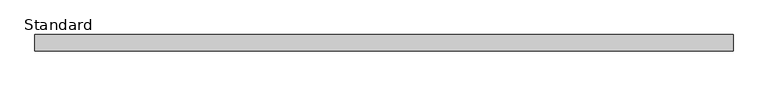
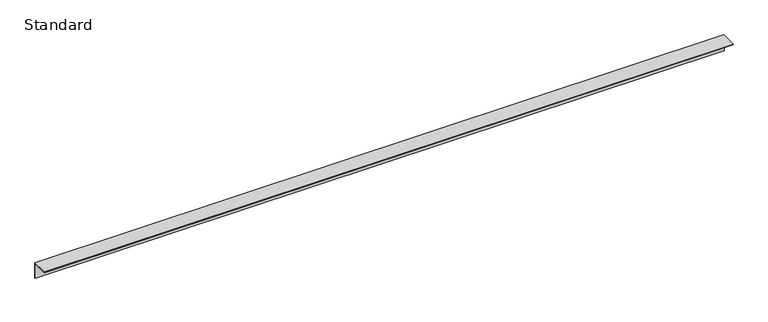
"""IFC4 building model written with IfcOpenShell, lengths in millimetres: furniture geometry, X_Vanity-Angle-Duracube-Bench Support : Standard."""

from ifc_helpers import new_model, si_unit, frame, origin, place, context, project, spatial, polyline, outline, extrude, source, transform, mapped, element, save


def standard_6c27929b(model_context):
    return source(origin(), model_context, "Body", "SweptSolid", [
        extrude(outline(polyline([(0.0, 0.0), (-2.0, 0.0), (-2.0, 38.0), (-40.0, 38.0), (-40.0, 40.0), (0.0, 40.0), (0.0, 0.0)])), frame((-808.7996736, 0.0, 0.0), z_axis=(1.0, 0.0, 0.0), x_axis=(0.0, 1.0, 0.0)), (0.0, 0.0, 1.0), 1707.0),
    ])


if __name__ == "__main__":
    model = new_model("IFC4")
    model_context = context("Model", 3, world=origin())
    ifc_project = project(units=[si_unit("LENGTHUNIT", "METRE", prefix="MILLI")], contexts=[model_context])
    site = spatial("IfcSite", under=ifc_project)
    building = spatial("IfcBuilding", under=site)
    placement = place(None, origin())
    standard_shape = standard_6c27929b(model_context)
    element("IfcFurniture", 1, ObjectType="X_Vanity-Angle-Duracube-Bench Support : Standard", at=placement, inside=building, context=model_context, shape_type="MappedRepresentation", body=[
        mapped(standard_shape, transform((0.0, 0.0, 0.0), x_axis=(1.0, 0.0, 0.0), y_axis=(0.0, 1.0, 0.0), z_axis=(0.0, 0.0, 1.0))),
    ])
    save(model, "model.ifc")
